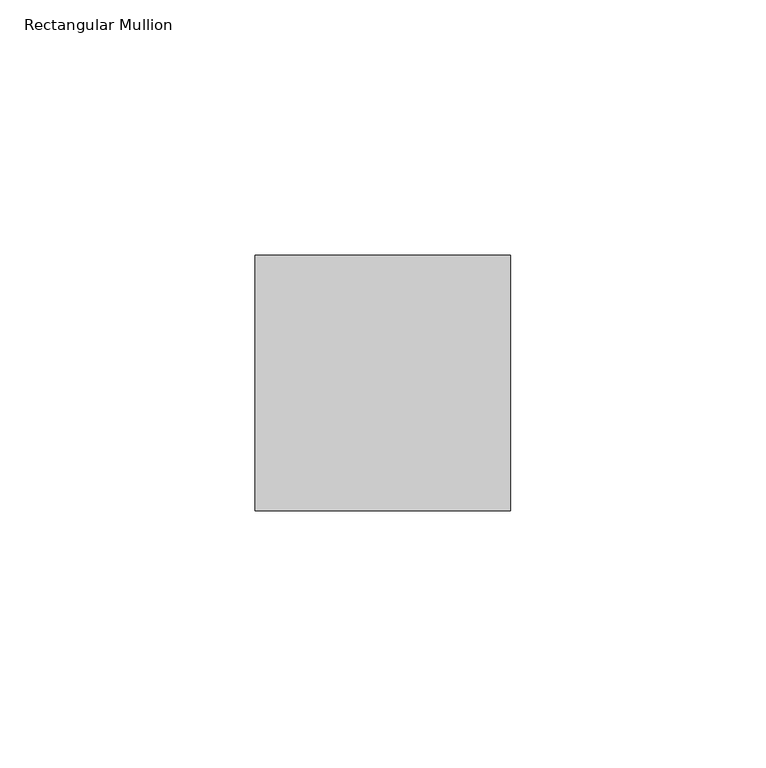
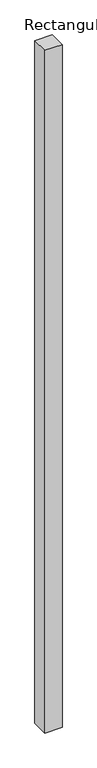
"""IFC4 building model written with IfcOpenShell, lengths in millimetres: member geometry, Rectangular Mullion : Mullion_Curtain Wall_Generic Showcase_50x50mm."""

from ifc_helpers import new_model, si_unit, frame, origin, place, context, project, spatial, polyline, outline, extrude, source, transform, mapped, element, save


def rectangular_mullion_fe69a189(model_context):
    return source(origin(), model_context, "Body", "SweptSolid", [
        extrude(outline(polyline([(25.0, 50.0), (25.0, 0.0), (-25.0, 0.0), (-25.0, 50.0), (25.0, 50.0)])), frame((0.0, 0.0, -2096.0060738), z_axis=(0.0, 0.0, 1.0), x_axis=(1.0, 0.0, 0.0)), (0.0, 0.0, 1.0), 2096.0060738),
    ])


if __name__ == "__main__":
    model = new_model("IFC4")
    model_context = context("Model", 3, world=origin())
    ifc_project = project(units=[si_unit("LENGTHUNIT", "METRE", prefix="MILLI")], contexts=[model_context])
    site = spatial("IfcSite", under=ifc_project)
    building = spatial("IfcBuilding", under=site)
    placement = place(None, origin())
    rectangular_mullion_shape = rectangular_mullion_fe69a189(model_context)
    element("IfcMember", 1, ObjectType="Rectangular Mullion : Mullion_Curtain Wall_Generic Showcase_50x50mm", at=placement, inside=building, context=model_context, shape_type="MappedRepresentation", body=[
        mapped(rectangular_mullion_shape, transform((0.0, 0.0, 0.0), x_axis=(1.0, 0.0, 0.0), y_axis=(0.0, 1.0, 0.0), z_axis=(0.0, 0.0, 1.0))),
    ])
    save(model, "model.ifc")
